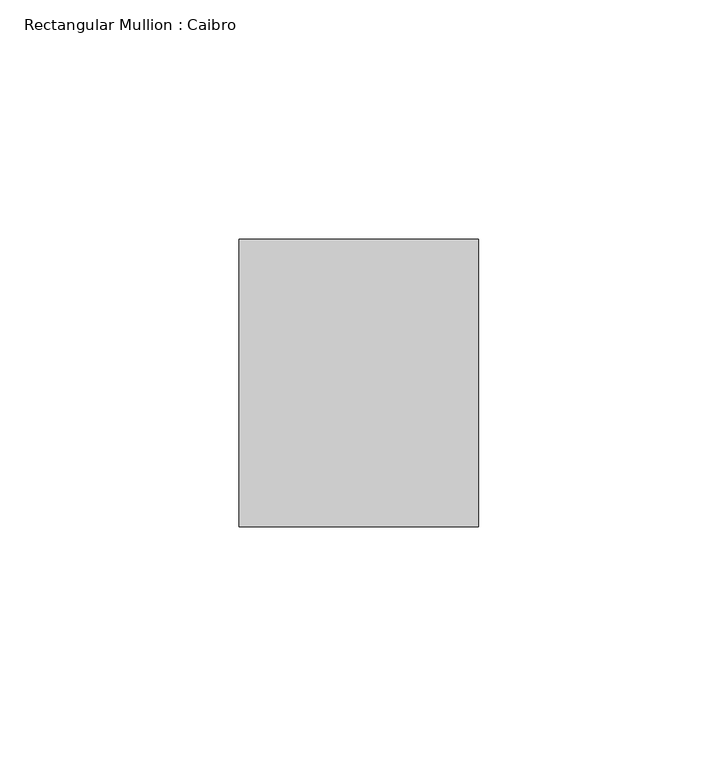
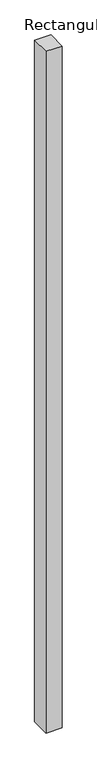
"""IFC4 building model written with IfcOpenShell, lengths in millimetres: member geometry, Rectangular Mullion : Caibro."""

from ifc_helpers import new_model, si_unit, frame, origin, place, context, project, spatial, polyline, outline, extrude, source, transform, mapped, element, save


def rectangular_mullion_caibro_75ce8668(model_context):
    return source(origin(), model_context, "Body", "SweptSolid", [
        extrude(outline(polyline([(-50.0, -60.0), (-50.0, 0.0), (0.0, 0.0), (0.0, -60.0), (-50.0, -60.0)])), frame((0.0, 0.0, -2219.7393248), z_axis=(0.0, 0.0, 1.0), x_axis=(1.0, 0.0, 0.0)), (0.0, 0.0, 1.0), 2219.7393248),
    ])


if __name__ == "__main__":
    model = new_model("IFC4")
    model_context = context("Model", 3, world=origin())
    ifc_project = project(units=[si_unit("LENGTHUNIT", "METRE", prefix="MILLI")], contexts=[model_context])
    site = spatial("IfcSite", under=ifc_project)
    building = spatial("IfcBuilding", under=site)
    placement = place(None, origin())
    rectangular_mullion_caibro_shape = rectangular_mullion_caibro_75ce8668(model_context)
    element("IfcMember", 1, ObjectType="Rectangular Mullion : Caibro", at=placement, inside=building, context=model_context, shape_type="MappedRepresentation", body=[
        mapped(rectangular_mullion_caibro_shape, transform((0.0, 0.0, 0.0), x_axis=(1.0, 0.0, 0.0), y_axis=(0.0, 1.0, 0.0), z_axis=(0.0, 0.0, 1.0))),
    ])
    save(model, "model.ifc")
